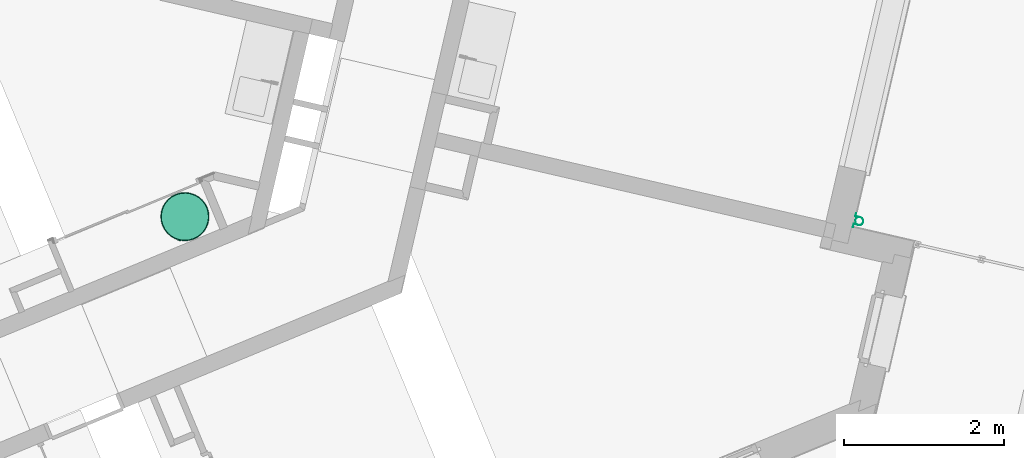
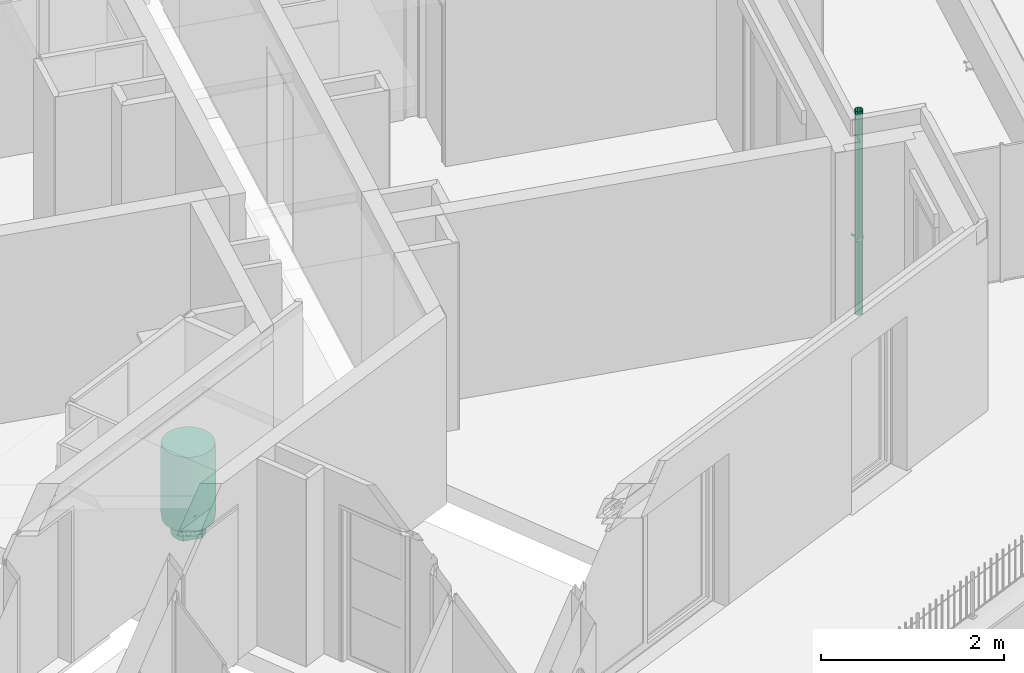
# One storey, part 90 of 119: 1 energy conversion device, 1 flow terminal.
"""IFC2X3 building model written with IfcOpenShell, lengths in metres."""

import ifcopenshell
import ifcopenshell.guid

model = None  # the IFC model being written
_history = None  # IfcOwnerHistory: only IFC2X3 demands one
_inside = {}  # id of a spatial element -> (the spatial element, [elements in it])
_under = {}  # id of a project, library or spatial element -> (it, [spatial elements below it])
_declared = {}  # id of a project -> (the project, [libraries it declares])
_typed = {}  # id of a type object -> (the type object, [elements of that type])
_made_of = {}  # id of a material, layer set ... -> (it, [elements and type objects made of it])


def new_model(schema):
    """Start an empty IFC model of exactly this schema.

    Asked for "IFC4X3", IfcOpenShell would pick the latest addendum, in which some entities
    have other attributes; the version numbers below select the first issue.
    IFC2X3 requires an IfcOwnerHistory on every rooted entity: one is made here for all.
    """
    global model, _history
    if schema == "IFC4X3":
        model = ifcopenshell.file(schema_version=(4, 3, 0, 0))
    else:
        model = ifcopenshell.file(schema=schema)
    _inside.clear()
    _under.clear()
    _declared.clear()
    _typed.clear()
    _made_of.clear()
    _history = None
    if model.schema == "IFC2X3":
        org = make("IfcOrganization", Name="unknown")
        user = make(
            "IfcPersonAndOrganization",
            ThePerson=make("IfcPerson", FamilyName="unknown"),
            TheOrganization=org,
        )
        app = make(
            "IfcApplication",
            ApplicationDeveloper=org,
            Version="unknown",
            ApplicationFullName="unknown",
            ApplicationIdentifier="unknown",
        )
        _history = make(
            "IfcOwnerHistory",
            OwningUser=user,
            OwningApplication=app,
            ChangeAction="ADDED",
            CreationDate=0,
        )
    return model


def make(cls, **values):
    """One entity of the class cls with the attributes given. An attribute that is None is left unset."""
    return model.create_entity(
        cls, **{name: value for name, value in values.items() if value is not None}
    )


def entity(cls, *values):
    """Any entity or typed value of the class cls, its attributes in the order of the schema. None: left unset."""
    e = model.create_entity(cls)
    for i, value in enumerate(values):
        if value is not None:
            e[i] = value
    return e


def rooted(cls, **values):
    """An entity with a GlobalId (a new one), such as an element, a storey or a relation."""
    return make(cls, GlobalId=ifcopenshell.guid.new(), OwnerHistory=_history, **values)


def si_unit(unit_type, name, prefix=None):
    """IfcSIUnit, for example si_unit("LENGTHUNIT", "METRE", prefix="MILLI")."""
    return make("IfcSIUnit", UnitType=unit_type, Prefix=prefix, Name=name)


def converted_unit(unit_type, name, factor, base, dimensions=None, offset=None):
    """IfcConversionBasedUnit, such as the inch: factor (a typed value) times the base unit."""
    return make(
        "IfcConversionBasedUnit"
        if offset is None
        else "IfcConversionBasedUnitWithOffset",
        ConversionOffset=offset,
        Dimensions=None
        if dimensions is None
        else entity("IfcDimensionalExponents", *dimensions),
        UnitType=unit_type,
        Name=name,
        ConversionFactor=make(
            "IfcMeasureWithUnit", ValueComponent=factor, UnitComponent=base
        ),
    )


def derived_unit(unit_type, elements):
    """IfcDerivedUnit: a product of units, each with its exponent."""
    return make(
        "IfcDerivedUnit",
        Elements=[
            make("IfcDerivedUnitElement", Unit=unit, Exponent=power)
            for unit, power in elements
        ],
        UnitType=unit_type,
    )


def money_unit(currency):
    """IfcMonetaryUnit."""
    return make("IfcMonetaryUnit", Currency=currency)


def assignment(units):
    """IfcUnitAssignment: the units of a project."""
    return None if units is None else make("IfcUnitAssignment", Units=units)


def point(xyz):
    """IfcCartesianPoint."""
    return None if xyz is None else make("IfcCartesianPoint", Coordinates=xyz)


def direction(xyz):
    """IfcDirection."""
    return None if xyz is None else make("IfcDirection", DirectionRatios=xyz)


def frame(location, z_axis=None, x_axis=None):
    """IfcAxis2Placement3D, a coordinate frame: its origin and axes. An axis left out is left unset."""
    return make(
        "IfcAxis2Placement3D",
        Location=point(location),
        Axis=direction(z_axis),
        RefDirection=direction(x_axis),
    )


def origin_with_axes():
    """The frame at (0, 0, 0) with the z axis (0, 0, 1) and the x axis (1, 0, 0) written out."""
    return frame((0.0, 0.0, 0.0), z_axis=(0.0, 0.0, 1.0), x_axis=(1.0, 0.0, 0.0))


def place(relative_to, where):
    """IfcLocalPlacement: puts the frame where relative to a parent placement (None: the world)."""
    return make(
        "IfcLocalPlacement", PlacementRelTo=relative_to, RelativePlacement=where
    )


def context(
    kind, dimensions, precision=None, world=None, true_north=None, identifier=None
):
    """IfcGeometricRepresentationContext, for example the 3D "Model" context."""
    return make(
        "IfcGeometricRepresentationContext",
        ContextIdentifier=identifier,
        ContextType=kind,
        CoordinateSpaceDimension=dimensions,
        Precision=precision,
        WorldCoordinateSystem=world,
        TrueNorth=true_north,
    )


def subcontext(parent, identifier, kind, view, scale=None):
    """IfcGeometricRepresentationSubContext, for example "Body" below "Model"."""
    return make(
        "IfcGeometricRepresentationSubContext",
        ContextIdentifier=identifier,
        ContextType=kind,
        ParentContext=parent,
        TargetScale=scale,
        TargetView=view,
    )


def project(units=None, contexts=None):
    """IfcProject with its units and contexts."""
    return rooted(
        "IfcProject",
        Name="project",
        RepresentationContexts=contexts,
        UnitsInContext=assignment(units),
    )


def spatial(cls, under=None, at=None, **own):
    """A site, building, storey or space (cls), placed at a placement, below another one or the project."""
    s = rooted(cls, ObjectPlacement=at, **own)
    if under is not None:
        _under.setdefault(under.id(), (under, []))[1].append(s)
    return s


def faces_of(points, faces, orient=None, outer=None):
    """IfcFace entities. A face is a list of loops; a loop is a list of indices into points, from 0.

    orient and outer hold one flag for each loop. By default every Orientation is true, the
    first loop of a face is its IfcFaceOuterBound and the others are IfcFaceBound.
    """
    made = []
    for i, loops in enumerate(faces):
        bounds = []
        for j, loop in enumerate(loops):
            is_outer = j == 0 if outer is None else outer[i][j]
            bounds.append(
                make(
                    "IfcFaceOuterBound" if is_outer else "IfcFaceBound",
                    Bound=make("IfcPolyLoop", Polygon=[points[k] for k in loop]),
                    Orientation=True if orient is None else orient[i][j],
                )
            )
        made.append(make("IfcFace", Bounds=bounds))
    return made


def open_shell(faces, orient=None, outer=None):
    """The faces of one IfcOpenShell. surface_model builds it on its shared points."""
    return ("IfcOpenShell", faces, orient, outer)


def faceted_brep(points, faces, orient=None, outer=None, voids=None):
    """IfcFacetedBrep: a solid bounded by flat faces; with voids (closed shells), ...WithVoids."""
    shared = [point(p) for p in points]
    hull = make("IfcClosedShell", CfsFaces=faces_of(shared, faces, orient, outer))
    if voids is None:
        return make("IfcFacetedBrep", Outer=hull)
    return make(
        "IfcFacetedBrepWithVoids",
        Outer=hull,
        Voids=[
            make(cls, CfsFaces=faces_of(shared, fs, o, b)) for cls, fs, o, b in voids
        ],
    )


def surface_model(cls, points, shells):
    """IfcFaceBasedSurfaceModel or IfcShellBasedSurfaceModel (cls): surfaces that need not close."""
    shared = [point(p) for p in points]
    made = [make(c, CfsFaces=faces_of(shared, fs, o, b)) for c, fs, o, b in shells]
    if cls == "IfcFaceBasedSurfaceModel":
        return make(cls, FbsmFaces=made)
    return make(cls, SbsmBoundary=made)


def shape(context_of_items, identifier, shape_type, items):
    """IfcShapeRepresentation: the items that make up one representation, for example the "Body"."""
    return make(
        "IfcShapeRepresentation",
        ContextOfItems=context_of_items,
        RepresentationIdentifier=identifier,
        RepresentationType=shape_type,
        Items=items,
    )


def source(mapping_origin, context_of_items, identifier, shape_type, items):
    """IfcRepresentationMap: a shape defined once, which mapped items show again and again."""
    return make(
        "IfcRepresentationMap",
        MappingOrigin=mapping_origin,
        MappedRepresentation=shape(context_of_items, identifier, shape_type, items),
    )


def transform(
    local_origin,
    x_axis=None,
    y_axis=None,
    z_axis=None,
    scale=None,
    scale2=None,
    scale3=None,
    uniform=True,
):
    """IfcCartesianTransformationOperator3D, or its non-uniform kind. x_axis, y_axis, z_axis: its Axis1, 2, 3."""
    if uniform:
        return make(
            "IfcCartesianTransformationOperator3D",
            Axis1=direction(x_axis),
            Axis2=direction(y_axis),
            LocalOrigin=point(local_origin),
            Scale=scale,
            Axis3=direction(z_axis),
        )
    return make(
        "IfcCartesianTransformationOperator3DnonUniform",
        Axis1=direction(x_axis),
        Axis2=direction(y_axis),
        LocalOrigin=point(local_origin),
        Scale=scale,
        Axis3=direction(z_axis),
        Scale2=scale2,
        Scale3=scale3,
    )


def mapped(mapping_source, mapping_target):
    """IfcMappedItem: shows the shape of a source again, moved by a transform."""
    return make(
        "IfcMappedItem", MappingSource=mapping_source, MappingTarget=mapping_target
    )


def made_of(thing, what):
    """Note that an element or type object is made of a material, layer set ...; save() writes the relation."""
    if what is not None:
        _made_of.setdefault(what.id(), (what, []))[1].append(thing)
    return thing


def type_object(cls, material=None, **own):
    """A type object (cls), such as IfcWallType, which elements share."""
    return made_of(rooted(cls, **own), material)


def element(
    cls,
    number,
    at=None,
    inside=None,
    cuts=None,
    type_object=None,
    material=None,
    context=None,
    identifier="Body",
    shape_type=None,
    held_by="IfcProductDefinitionShape",
    body=None,
    shapes=None,
    **own,
):
    """One element of the class cls, such as IfcWall. Its Tag is "e" and its number.

    at: its placement. inside: the storey or other place that contains it. cuts: it is an
    opening in that element (IfcRelVoidsElement). A single representation is given by context,
    identifier, shape_type and body (its items); several are given by shapes. held_by: the class
    of the entity that holds the representations. save() writes the other relations.
    """
    e = rooted(cls, Tag="e%d" % number, ObjectPlacement=at, **own)
    if body is not None:
        shapes = [shape(context, identifier, shape_type, body)]
    if shapes is not None:
        e.Representation = make(held_by, Representations=shapes)
    if inside is not None:
        _inside.setdefault(inside.id(), (inside, []))[1].append(e)
    if cuts is not None:
        rooted(
            "IfcRelVoidsElement", RelatingBuildingElement=cuts, RelatedOpeningElement=e
        )
    if type_object is not None:
        _typed.setdefault(type_object.id(), (type_object, []))[1].append(e)
    return made_of(e, material)


def aggregate(whole, parts):
    """IfcRelAggregates: a whole, such as a stair, and the parts it consists of."""
    return rooted("IfcRelAggregates", RelatingObject=whole, RelatedObjects=parts)


def save(model, path):
    """Write the relations noted so far, then the file.

    IfcRelAggregates (storeys below a building ...), IfcRelContainedInSpatialStructure (elements
    in a storey), IfcRelDefinesByType, IfcRelAssociatesMaterial and IfcRelDeclares: one each for
    every whole, place, type object, material and project.
    """
    for whole, parts in _under.values():
        aggregate(whole, parts)
    for where, things in _inside.values():
        rooted(
            "IfcRelContainedInSpatialStructure",
            RelatedElements=things,
            RelatingStructure=where,
        )
    for kind, things in _typed.values():
        rooted("IfcRelDefinesByType", RelatedObjects=things, RelatingType=kind)
    for what, things in _made_of.values():
        rooted("IfcRelAssociatesMaterial", RelatedObjects=things, RelatingMaterial=what)
    for by, libraries in _declared.values():
        rooted("IfcRelDeclares", RelatingContext=by, RelatedDefinitions=libraries)
    model.write(path)


model = new_model("IFC2X3")

# Units and contexts
model_context = context("Model", 3, precision=1e-05, world=origin_with_axes(), true_north=direction((0.0, 1.0)))
body_context = subcontext(model_context, "Body", "Model", "MODEL_VIEW")
ifc_project = project(units=[si_unit("LENGTHUNIT", "METRE"), si_unit("AREAUNIT", "SQUARE_METRE"), si_unit("VOLUMEUNIT", "CUBIC_METRE"), converted_unit("PLANEANGLEUNIT", "DEGREE", entity("IfcPlaneAngleMeasure", 0.0174532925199), si_unit("PLANEANGLEUNIT", "RADIAN"), dimensions=[0, 0, 0, 0, 0, 0, 0]), si_unit("SOLIDANGLEUNIT", "STERADIAN"), money_unit("EUR"), converted_unit("TIMEUNIT", "Year", entity("IfcTimeMeasure", 31556926.0), si_unit("TIMEUNIT", "SECOND"), dimensions=[0, 0, 1, 0, 0, 0, 0]), si_unit("MASSUNIT", "GRAM", prefix="KILO"), si_unit("THERMODYNAMICTEMPERATUREUNIT", "DEGREE_CELSIUS"), si_unit("LUMINOUSINTENSITYUNIT", "LUMEN"), si_unit("ENERGYUNIT", "JOULE", prefix="MEGA"), derived_unit("THERMALCONDUCTANCEUNIT", [(si_unit("POWERUNIT", "WATT"), 1), (si_unit("LENGTHUNIT", "METRE"), -1), (si_unit("THERMODYNAMICTEMPERATUREUNIT", "KELVIN"), -1)]), derived_unit("SPECIFICHEATCAPACITYUNIT", [(si_unit("ENERGYUNIT", "JOULE"), 1), (si_unit("MASSUNIT", "GRAM", prefix="KILO"), -1), (si_unit("THERMODYNAMICTEMPERATUREUNIT", "KELVIN"), -1)]), derived_unit("MASSDENSITYUNIT", [(si_unit("MASSUNIT", "GRAM", prefix="KILO"), 1), (si_unit("VOLUMEUNIT", "CUBIC_METRE"), -1)])], contexts=[model_context])

# Site, building, storey
site_placement = place(None, origin_with_axes())
site = spatial("IfcSite", under=ifc_project, at=site_placement, Name="Site", CompositionType="ELEMENT")
building_placement = place(site_placement, origin_with_axes())
building = spatial("IfcBuilding", under=site, at=building_placement, Name="Bâtiment", CompositionType="ELEMENT")
storey_placement = place(building_placement, origin_with_axes())
storey = spatial("IfcBuildingStorey", under=building, at=storey_placement, Name="Rez-de-chaussée", CompositionType="ELEMENT", Elevation=0.0)

# Flow terminal
waste_terminal_type = type_object("IfcWasteTerminalType", Name="Tuyau descente 23", PredefinedType="GULLYTRAP")
shared_shape_1 = source(origin_with_axes(), body_context, "Body", "SurfaceModel", [
    surface_model("IfcShellBasedSurfaceModel", [(0.05, -0.0125, 2.7222918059), (0.0433012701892, -0.0375, 2.7222918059), (0.0433012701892, -0.0375, 0.0), (0.05, -0.0125, 0.0), (0.025, -0.0558012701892, 2.7222918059), (0.025, -0.0558012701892, 0.0), (0.0433012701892, 0.0125, 2.7222918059), (0.0433012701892, 0.0125, 0.0), (0.0, -0.0625, 2.7222918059), (0.0, -0.0625, 0.0), (0.025, 0.0308012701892, 2.7222918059), (0.025, 0.0308012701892, 0.0), (-0.025, -0.0558012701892, 2.7222918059), (-0.025, -0.0558012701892, 0.0), (0.0, 0.0375, 2.7222918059), (0.0, 0.0375, 0.0), (-0.0433012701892, -0.0375, 2.7222918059), (-0.0433012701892, -0.0375, 0.0), (-0.025, 0.0308012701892, 2.7222918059), (-0.025, 0.0308012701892, 0.0), (-0.05, -0.0125, 2.7222918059), (-0.05, -0.0125, 0.0), (-0.0433012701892, 0.0125, 2.7222918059), (-0.0433012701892, 0.0125, 0.0)], [open_shell([[[0, 1, 2, 3]], [[1, 4, 5, 2]], [[6, 0, 3, 7]], [[4, 8, 9, 5]], [[10, 6, 7, 11]], [[8, 12, 13, 9]], [[14, 10, 11, 15]], [[12, 16, 17, 13]], [[18, 14, 15, 19]], [[16, 20, 21, 17]], [[22, 18, 19, 23]], [[20, 22, 23, 21]]])]),
    faceted_brep([(-0.09, 0.0479, 1.0), (-0.052, 0.0479, 1.0), (-0.052, 0.0479, 1.03), (-0.09, 0.0479, 1.03), (-0.09, 0.0499, 1.0), (-0.0502, 0.0499, 1.0), (-0.0502, -0.0126, 1.0), (-0.04347447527, -0.0377, 1.0), (-0.0251, -0.05607447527, 1.0), (0.0, -0.0628, 1.0), (0.0251, -0.05607447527, 1.0), (0.04347447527, -0.0377, 1.0), (0.0502, -0.0126, 1.0), (0.0502, 0.0499, 1.0), (0.09, 0.0499, 1.0), (0.09, 0.0479, 1.0), (0.052, 0.0479, 1.0), (0.052, -0.0126, 1.0), (0.0450333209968, -0.0386, 1.0), (0.026, -0.0576333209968, 1.0), (0.0, -0.0646, 1.0), (-0.026, -0.0576333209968, 1.0), (-0.0450333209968, -0.0386, 1.0), (-0.052, -0.0126, 1.0), (-0.052, -0.0126, 1.03), (-0.0450333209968, -0.0386, 1.03), (-0.026, -0.0576333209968, 1.03), (0.0, -0.0646, 1.03), (0.026, -0.0576333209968, 1.03), (0.0450333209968, -0.0386, 1.03), (0.052, -0.0126, 1.03), (0.052, 0.0479, 1.03), (0.09, 0.0479, 1.03), (0.09, 0.0499, 1.03), (0.0502, 0.0499, 1.03), (0.0502, -0.0126, 1.03), (0.04347447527, -0.0377, 1.03), (0.0251, -0.05607447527, 1.03), (0.0, -0.0628, 1.03), (-0.0251, -0.05607447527, 1.03), (-0.04347447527, -0.0377, 1.03), (-0.0502, -0.0126, 1.03), (-0.0502, 0.0499, 1.03), (-0.09, 0.0499, 1.03)], [[[0, 1, 2, 3]], [[0, 4, 5, 6, 7, 8, 9, 10, 11, 12, 13, 14, 15, 16, 17, 18, 19, 20, 21, 22, 23, 1]], [[1, 23, 24, 2]], [[3, 2, 24, 25, 26, 27, 28, 29, 30, 31, 32, 33, 34, 35, 36, 37, 38, 39, 40, 41, 42, 43]], [[4, 0, 3, 43]], [[5, 4, 43, 42]], [[6, 5, 42, 41]], [[7, 6, 41, 40]], [[8, 7, 40, 39]], [[9, 8, 39, 38]], [[10, 9, 38, 37]], [[11, 10, 37, 36]], [[12, 11, 36, 35]], [[13, 12, 35, 34]], [[14, 13, 34, 33]], [[15, 14, 33, 32]], [[16, 15, 32, 31]], [[17, 16, 31, 30]], [[18, 17, 30, 29]], [[19, 18, 29, 28]], [[20, 19, 28, 27]], [[21, 20, 27, 26]], [[22, 21, 26, 25]], [[23, 22, 25, 24]]]),
])
flow_terminal_placement = place(storey_placement, frame((-7.80740943, -17.577922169, 0.0), z_axis=(0.0, 0.0, 1.0), x_axis=(0.224876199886, 0.97438734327, 0.0)))
element("IfcFlowTerminal", 1, at=flow_terminal_placement, inside=storey, type_object=waste_terminal_type, Name="MOB-006", context=body_context, shape_type="MappedRepresentation", body=[
    mapped(shared_shape_1, transform((0.0, 0.0, 0.0))),
])

# Energy conversion device
heat_exchanger_type = type_object("IfcHeatExchangerType", Name="Chauffe-eau électrique 23", PredefinedType="SHELLANDTUBE")
shared_shape_2 = source(origin_with_axes(), body_context, "Body", "Brep", [
    faceted_brep([(-0.0254166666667, -0.310083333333, 0.4), (-0.0254166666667, -0.305, 0.4), (0.0254166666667, -0.305, 0.4), (0.0254166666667, -0.310083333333, 0.4), (-0.0254166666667, -0.310083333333, 0.42), (-0.0254166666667, -0.305, 0.42), (0.0254166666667, -0.305, 0.42), (0.0254166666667, -0.310083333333, 0.42)], [[[0, 1, 2, 3]], [[0, 4, 5, 1]], [[1, 5, 6, 2]], [[2, 6, 7, 3]], [[3, 7, 4, 0]], [[7, 6, 5, 4]]]),
    faceted_brep([(0.0226550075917, -0.162666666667, 0.0883281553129), (0.0203333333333, -0.162666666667, 0.1), (0.0226550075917, -0.162666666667, 0.111671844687), (0.0292665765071, -0.162666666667, 0.121566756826), (0.0391614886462, -0.162666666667, 0.128178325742), (0.0508333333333, -0.162666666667, 0.1305), (0.0625051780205, -0.162666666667, 0.128178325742), (0.0724000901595, -0.162666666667, 0.121566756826), (0.0790116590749, -0.162666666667, 0.111671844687), (0.0813333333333, -0.162666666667, 0.1), (0.0790116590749, -0.162666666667, 0.0883281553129), (0.0724000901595, -0.162666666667, 0.0784332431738), (0.0625051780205, -0.162666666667, 0.0718216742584), (0.0508333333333, -0.162666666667, 0.0695), (0.0391614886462, -0.162666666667, 0.0718216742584), (0.0292665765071, -0.162666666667, 0.0784332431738), (0.0226550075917, -0.177916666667, 0.0883281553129), (0.0203333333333, -0.177916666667, 0.1), (0.0226550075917, -0.177916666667, 0.111671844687), (0.0292665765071, -0.177916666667, 0.121566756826), (0.0391614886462, -0.177916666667, 0.128178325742), (0.0508333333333, -0.177916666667, 0.1305), (0.0625051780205, -0.177916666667, 0.128178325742), (0.0724000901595, -0.177916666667, 0.121566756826), (0.0790116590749, -0.177916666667, 0.111671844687), (0.0813333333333, -0.177916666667, 0.1), (0.0790116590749, -0.177916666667, 0.0883281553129), (0.0724000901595, -0.177916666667, 0.0784332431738), (0.0625051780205, -0.177916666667, 0.0718216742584), (0.0508333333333, -0.177916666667, 0.0695), (0.0391614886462, -0.177916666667, 0.0718216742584), (0.0292665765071, -0.177916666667, 0.0784332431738)], [[[0, 1, 2, 3, 4, 5, 6, 7, 8, 9, 10, 11, 12, 13, 14, 15]], [[0, 16, 17, 1]], [[1, 17, 18, 2]], [[2, 18, 19, 3]], [[3, 19, 20, 4]], [[4, 20, 21, 5]], [[5, 21, 22, 6]], [[6, 22, 23, 7]], [[7, 23, 24, 8]], [[8, 24, 25, 9]], [[9, 25, 26, 10]], [[10, 26, 27, 11]], [[11, 27, 28, 12]], [[12, 28, 29, 13]], [[13, 29, 30, 14]], [[14, 30, 31, 15]], [[15, 31, 16, 0]], [[16, 31, 30, 29, 28, 27, 26, 25, 24, 23, 22, 21, 20, 19, 18, 17]]]),
    faceted_brep([(-0.0790116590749, -0.162666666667, 0.0883281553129), (-0.0813333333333, -0.162666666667, 0.1), (-0.0790116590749, -0.162666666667, 0.111671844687), (-0.0724000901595, -0.162666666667, 0.121566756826), (-0.0625051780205, -0.162666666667, 0.128178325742), (-0.0508333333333, -0.162666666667, 0.1305), (-0.0391614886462, -0.162666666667, 0.128178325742), (-0.0292665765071, -0.162666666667, 0.121566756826), (-0.0226550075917, -0.162666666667, 0.111671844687), (-0.0203333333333, -0.162666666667, 0.1), (-0.0226550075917, -0.162666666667, 0.0883281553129), (-0.0292665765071, -0.162666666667, 0.0784332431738), (-0.0391614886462, -0.162666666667, 0.0718216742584), (-0.0508333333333, -0.162666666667, 0.0695), (-0.0625051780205, -0.162666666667, 0.0718216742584), (-0.0724000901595, -0.162666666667, 0.0784332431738), (-0.0790116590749, -0.177916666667, 0.0883281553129), (-0.0813333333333, -0.177916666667, 0.1), (-0.0790116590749, -0.177916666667, 0.111671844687), (-0.0724000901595, -0.177916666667, 0.121566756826), (-0.0625051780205, -0.177916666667, 0.128178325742), (-0.0508333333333, -0.177916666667, 0.1305), (-0.0391614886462, -0.177916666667, 0.128178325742), (-0.0292665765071, -0.177916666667, 0.121566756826), (-0.0226550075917, -0.177916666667, 0.111671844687), (-0.0203333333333, -0.177916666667, 0.1), (-0.0226550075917, -0.177916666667, 0.0883281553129), (-0.0292665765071, -0.177916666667, 0.0784332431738), (-0.0391614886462, -0.177916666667, 0.0718216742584), (-0.0508333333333, -0.177916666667, 0.0695), (-0.0625051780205, -0.177916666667, 0.0718216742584), (-0.0724000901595, -0.177916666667, 0.0784332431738)], [[[0, 1, 2, 3, 4, 5, 6, 7, 8, 9, 10, 11, 12, 13, 14, 15]], [[0, 16, 17, 1]], [[1, 17, 18, 2]], [[2, 18, 19, 3]], [[3, 19, 20, 4]], [[4, 20, 21, 5]], [[5, 21, 22, 6]], [[6, 22, 23, 7]], [[7, 23, 24, 8]], [[8, 24, 25, 9]], [[9, 25, 26, 10]], [[10, 26, 27, 11]], [[11, 27, 28, 12]], [[12, 28, 29, 13]], [[13, 29, 30, 14]], [[14, 30, 31, 15]], [[15, 31, 16, 0]], [[16, 31, 30, 29, 28, 27, 26, 25, 24, 23, 22, 21, 20, 19, 18, 17]]]),
    faceted_brep([(-0.189455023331, -0.0376849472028, 0.0), (-0.199426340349, -0.0396683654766, 0.2), (-0.203333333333, 0.0, 0.2), (-0.193166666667, 0.0, 0.0), (-0.178462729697, -0.0739216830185, 0.0), (-0.187855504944, -0.0778122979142, 0.2), (-0.169065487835, -0.112965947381, 0.2), (-0.143778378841, -0.143778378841, 0.2), (-0.120762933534, -0.162666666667, 0.2), (0.120762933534, -0.162666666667, 0.2), (0.143778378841, -0.143778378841, 0.2), (0.169065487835, -0.112965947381, 0.2), (0.187855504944, -0.0778122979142, 0.2), (0.199426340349, -0.0396683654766, 0.2), (0.203333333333, 0.0, 0.2), (0.199426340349, 0.0396683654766, 0.2), (0.187855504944, 0.0778122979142, 0.2), (0.169065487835, 0.112965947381, 0.2), (0.143778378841, 0.143778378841, 0.2), (0.112965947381, 0.169065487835, 0.2), (0.0778122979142, 0.187855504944, 0.2), (0.0396683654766, 0.199426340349, 0.2), (0.0, 0.203333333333, 0.2), (-0.0396683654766, 0.199426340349, 0.2), (-0.0778122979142, 0.187855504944, 0.2), (-0.112965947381, 0.169065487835, 0.2), (-0.143778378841, 0.143778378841, 0.2), (-0.169065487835, 0.112965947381, 0.2), (-0.187855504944, 0.0778122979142, 0.2), (-0.199426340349, 0.0396683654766, 0.2), (-0.189455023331, 0.0376849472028, 0.0), (-0.178462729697, 0.0739216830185, 0.0), (-0.160612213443, 0.107317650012, 0.0), (-0.136589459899, 0.136589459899, 0.0), (-0.107317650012, 0.160612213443, 0.0), (-0.0739216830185, 0.178462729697, 0.0), (-0.0376849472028, 0.189455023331, 0.0), (0.0, 0.193166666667, 0.0), (0.0376849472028, 0.189455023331, 0.0), (0.0739216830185, 0.178462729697, 0.0), (0.107317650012, 0.160612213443, 0.0), (0.136589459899, 0.136589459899, 0.0), (0.160612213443, 0.107317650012, 0.0), (0.178462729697, 0.0739216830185, 0.0), (0.189455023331, 0.0376849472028, 0.0), (0.193166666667, 0.0, 0.0), (0.189455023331, -0.0376849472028, 0.0), (0.178462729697, -0.0739216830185, 0.0), (0.160612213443, -0.107317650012, 0.0), (0.136589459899, -0.136589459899, 0.0), (0.107317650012, -0.160612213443, 0.0), (0.103474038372, -0.162666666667, 0.0), (-0.103474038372, -0.162666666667, 0.0), (-0.107317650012, -0.160612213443, 0.0), (-0.136589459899, -0.136589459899, 0.0), (-0.160612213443, -0.107317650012, 0.0), (-0.108690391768, -0.162666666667, 0.0486072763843), (0.108690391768, -0.162666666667, 0.0486072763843)], [[[0, 1, 2, 3]], [[4, 5, 1, 0]], [[1, 5, 6, 7, 8, 9, 10, 11, 12, 13, 14, 15, 16, 17, 18, 19, 20, 21, 22, 23, 24, 25, 26, 27, 28, 29, 2]], [[3, 2, 29, 30]], [[0, 3, 30, 31, 32, 33, 34, 35, 36, 37, 38, 39, 40, 41, 42, 43, 44, 45, 46, 47, 48, 49, 50, 51, 52, 53, 54, 55, 4]], [[55, 6, 5, 4]], [[54, 7, 6, 55]], [[53, 56, 8, 7, 54]], [[51, 57, 9, 8, 56, 52]], [[49, 10, 9, 57, 50]], [[48, 11, 10, 49]], [[47, 12, 11, 48]], [[46, 13, 12, 47]], [[45, 14, 13, 46]], [[44, 15, 14, 45]], [[43, 16, 15, 44]], [[42, 17, 16, 43]], [[41, 18, 17, 42]], [[40, 19, 18, 41]], [[39, 20, 19, 40]], [[38, 21, 20, 39]], [[37, 22, 21, 38]], [[36, 23, 22, 37]], [[35, 24, 23, 36]], [[34, 25, 24, 35]], [[33, 26, 25, 34]], [[32, 27, 26, 33]], [[31, 28, 27, 32]], [[30, 29, 28, 31]], [[50, 57, 51]], [[52, 56, 53]]]),
    faceted_brep([(-0.289168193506, -0.0575191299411, 0.2), (-0.299139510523, -0.0595025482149, 0.3), (-0.305, 0.0, 0.3), (-0.294833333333, 0.0, 0.2), (-0.272390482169, -0.112827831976, 0.2), (-0.281783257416, -0.116718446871, 0.3), (-0.253598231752, -0.169448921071, 0.3), (-0.215667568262, -0.215667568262, 0.3), (-0.169448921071, -0.253598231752, 0.3), (-0.116718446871, -0.281783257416, 0.3), (-0.0595025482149, -0.299139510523, 0.3), (0.0, -0.305, 0.3), (0.0595025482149, -0.299139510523, 0.3), (0.116718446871, -0.281783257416, 0.3), (0.169448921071, -0.253598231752, 0.3), (0.215667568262, -0.215667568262, 0.3), (0.253598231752, -0.169448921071, 0.3), (0.281783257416, -0.116718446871, 0.3), (0.299139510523, -0.0595025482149, 0.3), (0.305, 0.0, 0.3), (0.299139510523, 0.0595025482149, 0.3), (0.281783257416, 0.116718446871, 0.3), (0.253598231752, 0.169448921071, 0.3), (0.215667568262, 0.215667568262, 0.3), (0.169448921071, 0.253598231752, 0.3), (0.116718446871, 0.281783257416, 0.3), (0.0595025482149, 0.299139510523, 0.3), (0.0, 0.305, 0.3), (-0.0595025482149, 0.299139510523, 0.3), (-0.116718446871, 0.281783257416, 0.3), (-0.169448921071, 0.253598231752, 0.3), (-0.215667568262, 0.215667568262, 0.3), (-0.253598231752, 0.169448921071, 0.3), (-0.281783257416, 0.116718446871, 0.3), (-0.299139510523, 0.0595025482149, 0.3), (-0.289168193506, 0.0575191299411, 0.2), (-0.272390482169, 0.112827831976, 0.2), (-0.245144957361, 0.163800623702, 0.2), (-0.20847864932, 0.20847864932, 0.2), (-0.163800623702, 0.245144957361, 0.2), (-0.112827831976, 0.272390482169, 0.2), (-0.0575191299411, 0.289168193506, 0.2), (0.0, 0.294833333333, 0.2), (0.0575191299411, 0.289168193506, 0.2), (0.112827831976, 0.272390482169, 0.2), (0.163800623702, 0.245144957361, 0.2), (0.20847864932, 0.20847864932, 0.2), (0.245144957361, 0.163800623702, 0.2), (0.272390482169, 0.112827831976, 0.2), (0.289168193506, 0.0575191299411, 0.2), (0.294833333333, 0.0, 0.2), (0.289168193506, -0.0575191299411, 0.2), (0.272390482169, -0.112827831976, 0.2), (0.245144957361, -0.163800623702, 0.2), (0.20847864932, -0.20847864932, 0.2), (0.163800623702, -0.245144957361, 0.2), (0.112827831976, -0.272390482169, 0.2), (0.0575191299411, -0.289168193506, 0.2), (0.0, -0.294833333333, 0.2), (-0.0575191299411, -0.289168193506, 0.2), (-0.112827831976, -0.272390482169, 0.2), (-0.163800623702, -0.245144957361, 0.2), (-0.20847864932, -0.20847864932, 0.2), (-0.245144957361, -0.163800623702, 0.2)], [[[0, 1, 2, 3]], [[4, 5, 1, 0]], [[1, 5, 6, 7, 8, 9, 10, 11, 12, 13, 14, 15, 16, 17, 18, 19, 20, 21, 22, 23, 24, 25, 26, 27, 28, 29, 30, 31, 32, 33, 34, 2]], [[3, 2, 34, 35]], [[0, 3, 35, 36, 37, 38, 39, 40, 41, 42, 43, 44, 45, 46, 47, 48, 49, 50, 51, 52, 53, 54, 55, 56, 57, 58, 59, 60, 61, 62, 63, 4]], [[63, 6, 5, 4]], [[62, 7, 6, 63]], [[61, 8, 7, 62]], [[60, 9, 8, 61]], [[59, 10, 9, 60]], [[58, 11, 10, 59]], [[57, 12, 11, 58]], [[56, 13, 12, 57]], [[55, 14, 13, 56]], [[54, 15, 14, 55]], [[53, 16, 15, 54]], [[52, 17, 16, 53]], [[51, 18, 17, 52]], [[50, 19, 18, 51]], [[49, 20, 19, 50]], [[48, 21, 20, 49]], [[47, 22, 21, 48]], [[46, 23, 22, 47]], [[45, 24, 23, 46]], [[44, 25, 24, 45]], [[43, 26, 25, 44]], [[42, 27, 26, 43]], [[41, 28, 27, 42]], [[40, 29, 28, 41]], [[39, 30, 29, 40]], [[38, 31, 30, 39]], [[37, 32, 31, 38]], [[36, 33, 32, 37]], [[35, 34, 33, 36]]]),
    faceted_brep([(-0.299139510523, -0.0595025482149, 0.3), (-0.305, 0.0, 0.3), (-0.299139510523, 0.0595025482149, 0.3), (-0.281783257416, 0.116718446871, 0.3), (-0.253598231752, 0.169448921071, 0.3), (-0.215667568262, 0.215667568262, 0.3), (-0.169448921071, 0.253598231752, 0.3), (-0.116718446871, 0.281783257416, 0.3), (-0.0595025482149, 0.299139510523, 0.3), (0.0, 0.305, 0.3), (0.0595025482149, 0.299139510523, 0.3), (0.116718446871, 0.281783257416, 0.3), (0.169448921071, 0.253598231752, 0.3), (0.215667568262, 0.215667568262, 0.3), (0.253598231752, 0.169448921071, 0.3), (0.281783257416, 0.116718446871, 0.3), (0.299139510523, 0.0595025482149, 0.3), (0.305, 0.0, 0.3), (0.299139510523, -0.0595025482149, 0.3), (0.281783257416, -0.116718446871, 0.3), (0.253598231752, -0.169448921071, 0.3), (0.215667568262, -0.215667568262, 0.3), (0.169448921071, -0.253598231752, 0.3), (0.116718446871, -0.281783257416, 0.3), (0.0595025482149, -0.299139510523, 0.3), (0.0, -0.305, 0.3), (-0.0595025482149, -0.299139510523, 0.3), (-0.116718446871, -0.281783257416, 0.3), (-0.169448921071, -0.253598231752, 0.3), (-0.215667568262, -0.215667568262, 0.3), (-0.253598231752, -0.169448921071, 0.3), (-0.281783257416, -0.116718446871, 0.3), (-0.299139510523, -0.0595025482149, 1.1), (-0.305, 0.0, 1.1), (-0.299139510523, 0.0595025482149, 1.1), (-0.281783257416, 0.116718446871, 1.1), (-0.253598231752, 0.169448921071, 1.1), (-0.215667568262, 0.215667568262, 1.1), (-0.169448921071, 0.253598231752, 1.1), (-0.116718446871, 0.281783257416, 1.1), (-0.0595025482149, 0.299139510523, 1.1), (0.0, 0.305, 1.1), (0.0595025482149, 0.299139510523, 1.1), (0.116718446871, 0.281783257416, 1.1), (0.169448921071, 0.253598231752, 1.1), (0.215667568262, 0.215667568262, 1.1), (0.253598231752, 0.169448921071, 1.1), (0.281783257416, 0.116718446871, 1.1), (0.299139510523, 0.0595025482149, 1.1), (0.305, 0.0, 1.1), (0.299139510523, -0.0595025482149, 1.1), (0.281783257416, -0.116718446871, 1.1), (0.253598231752, -0.169448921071, 1.1), (0.215667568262, -0.215667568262, 1.1), (0.169448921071, -0.253598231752, 1.1), (0.116718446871, -0.281783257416, 1.1), (0.0595025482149, -0.299139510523, 1.1), (0.0, -0.305, 1.1), (-0.0595025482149, -0.299139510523, 1.1), (-0.116718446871, -0.281783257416, 1.1), (-0.169448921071, -0.253598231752, 1.1), (-0.215667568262, -0.215667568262, 1.1), (-0.253598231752, -0.169448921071, 1.1), (-0.281783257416, -0.116718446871, 1.1)], [[[0, 1, 2, 3, 4, 5, 6, 7, 8, 9, 10, 11, 12, 13, 14, 15, 16, 17, 18, 19, 20, 21, 22, 23, 24, 25, 26, 27, 28, 29, 30, 31]], [[0, 32, 33, 1]], [[1, 33, 34, 2]], [[2, 34, 35, 3]], [[3, 35, 36, 4]], [[4, 36, 37, 5]], [[5, 37, 38, 6]], [[6, 38, 39, 7]], [[7, 39, 40, 8]], [[8, 40, 41, 9]], [[9, 41, 42, 10]], [[10, 42, 43, 11]], [[11, 43, 44, 12]], [[12, 44, 45, 13]], [[13, 45, 46, 14]], [[14, 46, 47, 15]], [[15, 47, 48, 16]], [[16, 48, 49, 17]], [[17, 49, 50, 18]], [[18, 50, 51, 19]], [[19, 51, 52, 20]], [[20, 52, 53, 21]], [[21, 53, 54, 22]], [[22, 54, 55, 23]], [[23, 55, 56, 24]], [[24, 56, 57, 25]], [[25, 57, 58, 26]], [[26, 58, 59, 27]], [[27, 59, 60, 28]], [[28, 60, 61, 29]], [[29, 61, 62, 30]], [[30, 62, 63, 31]], [[31, 63, 32, 0]], [[32, 63, 62, 61, 60, 59, 58, 57, 56, 55, 54, 53, 52, 51, 50, 49, 48, 47, 46, 45, 44, 43, 42, 41, 40, 39, 38, 37, 36, 35, 34, 33]]]),
    faceted_brep([(-0.299139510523, -0.0595025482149, 1.1), (-0.289168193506, -0.0575191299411, 1.2), (-0.294833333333, 0.0, 1.2), (-0.305, 0.0, 1.1), (-0.281783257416, -0.116718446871, 1.1), (-0.272390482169, -0.112827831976, 1.2), (-0.245144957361, -0.163800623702, 1.2), (-0.20847864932, -0.20847864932, 1.2), (-0.163800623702, -0.245144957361, 1.2), (-0.112827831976, -0.272390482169, 1.2), (-0.0575191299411, -0.289168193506, 1.2), (0.0, -0.294833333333, 1.2), (0.0575191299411, -0.289168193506, 1.2), (0.112827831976, -0.272390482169, 1.2), (0.163800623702, -0.245144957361, 1.2), (0.20847864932, -0.20847864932, 1.2), (0.245144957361, -0.163800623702, 1.2), (0.272390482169, -0.112827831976, 1.2), (0.289168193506, -0.0575191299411, 1.2), (0.294833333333, 0.0, 1.2), (0.289168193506, 0.0575191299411, 1.2), (0.272390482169, 0.112827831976, 1.2), (0.245144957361, 0.163800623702, 1.2), (0.20847864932, 0.20847864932, 1.2), (0.163800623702, 0.245144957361, 1.2), (0.112827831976, 0.272390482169, 1.2), (0.0575191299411, 0.289168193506, 1.2), (0.0, 0.294833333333, 1.2), (-0.0575191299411, 0.289168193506, 1.2), (-0.112827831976, 0.272390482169, 1.2), (-0.163800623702, 0.245144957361, 1.2), (-0.20847864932, 0.20847864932, 1.2), (-0.245144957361, 0.163800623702, 1.2), (-0.272390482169, 0.112827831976, 1.2), (-0.289168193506, 0.0575191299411, 1.2), (-0.299139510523, 0.0595025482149, 1.1), (-0.281783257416, 0.116718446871, 1.1), (-0.253598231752, 0.169448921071, 1.1), (-0.215667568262, 0.215667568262, 1.1), (-0.169448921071, 0.253598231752, 1.1), (-0.116718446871, 0.281783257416, 1.1), (-0.0595025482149, 0.299139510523, 1.1), (0.0, 0.305, 1.1), (0.0595025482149, 0.299139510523, 1.1), (0.116718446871, 0.281783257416, 1.1), (0.169448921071, 0.253598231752, 1.1), (0.215667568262, 0.215667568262, 1.1), (0.253598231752, 0.169448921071, 1.1), (0.281783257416, 0.116718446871, 1.1), (0.299139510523, 0.0595025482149, 1.1), (0.305, 0.0, 1.1), (0.299139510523, -0.0595025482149, 1.1), (0.281783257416, -0.116718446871, 1.1), (0.253598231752, -0.169448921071, 1.1), (0.215667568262, -0.215667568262, 1.1), (0.169448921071, -0.253598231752, 1.1), (0.116718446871, -0.281783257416, 1.1), (0.0595025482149, -0.299139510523, 1.1), (0.0, -0.305, 1.1), (-0.0595025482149, -0.299139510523, 1.1), (-0.116718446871, -0.281783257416, 1.1), (-0.169448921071, -0.253598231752, 1.1), (-0.215667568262, -0.215667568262, 1.1), (-0.253598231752, -0.169448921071, 1.1)], [[[0, 1, 2, 3]], [[4, 5, 1, 0]], [[1, 5, 6, 7, 8, 9, 10, 11, 12, 13, 14, 15, 16, 17, 18, 19, 20, 21, 22, 23, 24, 25, 26, 27, 28, 29, 30, 31, 32, 33, 34, 2]], [[3, 2, 34, 35]], [[0, 3, 35, 36, 37, 38, 39, 40, 41, 42, 43, 44, 45, 46, 47, 48, 49, 50, 51, 52, 53, 54, 55, 56, 57, 58, 59, 60, 61, 62, 63, 4]], [[63, 6, 5, 4]], [[62, 7, 6, 63]], [[61, 8, 7, 62]], [[60, 9, 8, 61]], [[59, 10, 9, 60]], [[58, 11, 10, 59]], [[57, 12, 11, 58]], [[56, 13, 12, 57]], [[55, 14, 13, 56]], [[54, 15, 14, 55]], [[53, 16, 15, 54]], [[52, 17, 16, 53]], [[51, 18, 17, 52]], [[50, 19, 18, 51]], [[49, 20, 19, 50]], [[48, 21, 20, 49]], [[47, 22, 21, 48]], [[46, 23, 22, 47]], [[45, 24, 23, 46]], [[44, 25, 24, 45]], [[43, 26, 25, 44]], [[42, 27, 26, 43]], [[41, 28, 27, 42]], [[40, 29, 28, 41]], [[39, 30, 29, 40]], [[38, 31, 30, 39]], [[37, 32, 31, 38]], [[36, 33, 32, 37]], [[35, 34, 33, 36]]]),
])
energy_conversion_device_placement = place(storey_placement, frame((-16.2450388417, -17.5243887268, 0.0), z_axis=(0.0, 0.0, 1.0), x_axis=(0.974387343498, -0.224876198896, 0.0)))
element("IfcEnergyConversionDevice", 2, at=energy_conversion_device_placement, inside=storey, type_object=heat_exchanger_type, Name="MOB-002", context=body_context, shape_type="MappedRepresentation", body=[
    mapped(shared_shape_2, transform((0.0, 0.0, 0.0))),
])

save(model, "model.ifc")
